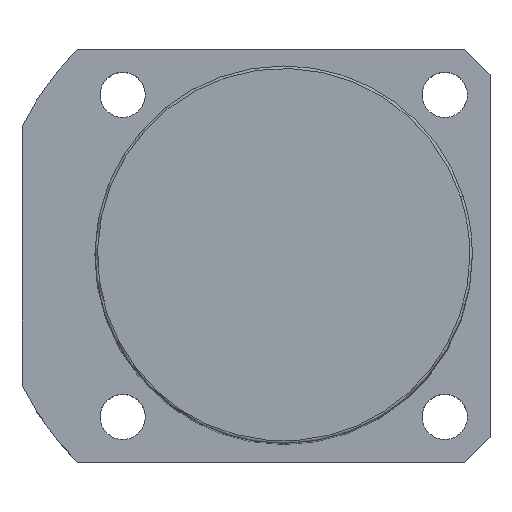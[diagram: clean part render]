
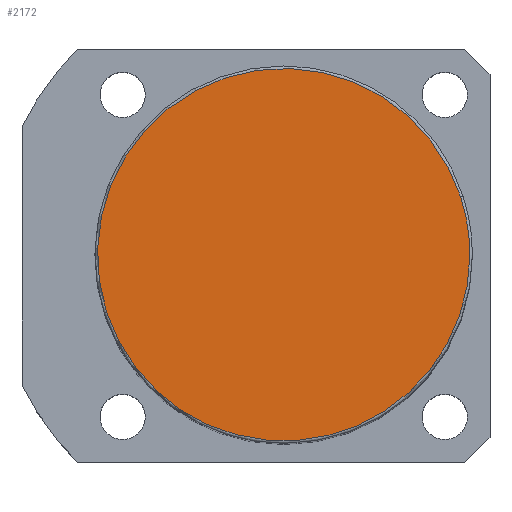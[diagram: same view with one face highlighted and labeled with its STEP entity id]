
A CAD part, top view. The second image highlights one B-rep face of the part: STEP entity #2172.
In plain terms, the highlighted planar face has unit normal (0, 0, 1).
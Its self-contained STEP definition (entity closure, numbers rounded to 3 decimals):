
#2105=CARTESIAN_POINT('',(35.189,11.434,153.0));
#2106=VERTEX_POINT('',#2105);
#2124=CARTESIAN_POINT('',(-35.189,-11.434,153.0));
#2125=VERTEX_POINT('',#2124);
#2133=CARTESIAN_POINT('',(0.0,0.0,153.0));
#2134=DIRECTION('',(0.0,0.0,1.0));
#2135=DIRECTION('',(1.0,0.0,0.0));
#2136=AXIS2_PLACEMENT_3D('',#2133,#2134,#2135);
#2137=CIRCLE('',#2136,37.0);
#2138=EDGE_CURVE('no 2001',#2106,#2125,#2137,.T.);
#2148=CARTESIAN_POINT('',(37.0,0.0,153.0));
#2149=VERTEX_POINT('',#2148);
#2150=CARTESIAN_POINT('',(0.0,0.0,153.0));
#2151=DIRECTION('',(0.0,0.0,1.0));
#2152=DIRECTION('',(1.0,0.0,0.0));
#2153=AXIS2_PLACEMENT_3D('',#2150,#2151,#2152);
#2154=CIRCLE('',#2153,37.0);
#2155=EDGE_CURVE('no 2010',#2149,#2106,#2154,.T.);
#2156=ORIENTED_EDGE('',*,*,#2155,.T.);
#2157=ORIENTED_EDGE('',*,*,#2138,.T.);
#2158=CARTESIAN_POINT('',(0.0,0.0,153.0));
#2159=DIRECTION('',(0.0,0.0,1.0));
#2160=DIRECTION('',(1.0,0.0,0.0));
#2161=AXIS2_PLACEMENT_3D('',#2158,#2159,#2160);
#2162=CIRCLE('',#2161,37.0);
#2163=EDGE_CURVE('no 2016',#2125,#2149,#2162,.T.);
#2164=ORIENTED_EDGE('',*,*,#2163,.T.);
#2165=EDGE_LOOP('',(#2156,#2157,#2164));
#2166=FACE_OUTER_BOUND('',#2165,.T.);
#2167=CARTESIAN_POINT('',(0.0,0.0,153.0));
#2168=DIRECTION('',(0.0,0.0,1.0));
#2169=DIRECTION('',(1.0,0.0,0.0));
#2170=AXIS2_PLACEMENT_3D('',#2167,#2168,#2169);
#2171=PLANE('',#2170);
#2172=ADVANCED_FACE('no 2003',(#2166),#2171,.T.);
